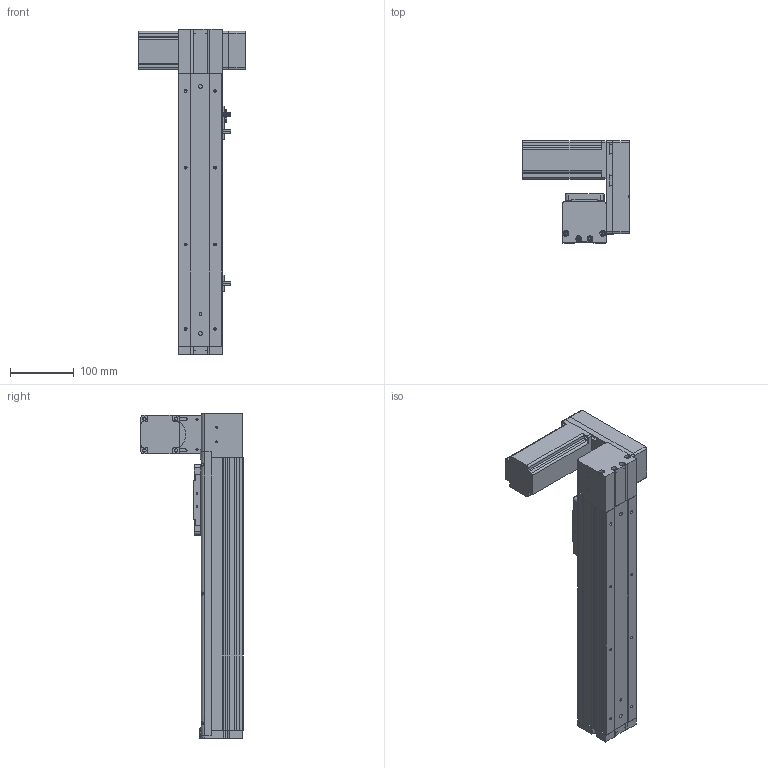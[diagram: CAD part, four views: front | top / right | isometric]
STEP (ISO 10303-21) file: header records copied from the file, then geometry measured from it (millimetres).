
FILE_DESCRIPTION (( 'STEP AP214' ), '1' );
FILE_NAME ('KSD68BS-S250-MLU-CR.STEP', '2019-11-08T01:18:55', ( '微软用户' ), ( '微软中国' ), 'SwSTEP 2.0', 'SolidWorks 2014', '' );
FILE_SCHEMA (( 'AUTOMOTIVE_DESIGN' ));
Length unit declared in the file: millimetre
Products named in the file (14): 68宽单导轨全封闭丝杆传动安装板1防护罩; KSD68BS 250行程侧板全封闭; 68宽单导轨全封闭同步带端板; 68单导轨全封闭同步带电机座左; 68单导轨全封闭同步带安装板; 悵誘欶奻狟殏; KSD68BS 250行程盖板全封闭; 68宽马达安装板连板上折同步带; 68遵裔啣揤啣1; 感应片68宽全封闭; U倰嫖萇EEㄜSX672; 台达ECMA－C20604AS伺服电机（400W); KSD68BS 250行程底板全封闭; KSD68BS-S250-MLU-CR
Assembly tree (17 placements, depth 2):
  KSD68BS-S250-MLU-CR
    KSD68BS 250行程底板全封闭
    台达ECMA－C20604AS伺服电机（400W)
    U倰嫖萇EEㄜSX672  x3
    感应片68宽全封闭
    68宽马达安装板连板上折同步带
    悵誘欶奻狟殏
    68单导轨全封闭同步带安装板
    68单导轨全封闭同步带电机座左
    68宽单导轨全封闭同步带端板
    KSD68BS 250行程侧板全封闭  x2
    68宽单导轨全封闭丝杆传动安装板1防护罩
    68遵裔啣揤啣1  x2
    KSD68BS 250行程盖板全封闭
Bounding box: 167.2 x 159.5 x 508.1 mm (x, y, z)
Volume: 1527109.4 mm3; surface area: 494397.7 mm2
Topology: 18 solids, 18 shells, 1345 faces, 3767 edges, 2426 vertices
Faces by surface type: plane 621, cylinder 596, cone 128
Entity records: 41121 total; most frequent: CARTESIAN_POINT 6925, DIRECTION 6238, ORIENTED_EDGE 5986, EDGE_CURVE 2993, AXIS2_PLACEMENT_3D 2207, VERTEX_POINT 1964, LINE 1824, VECTOR 1824
